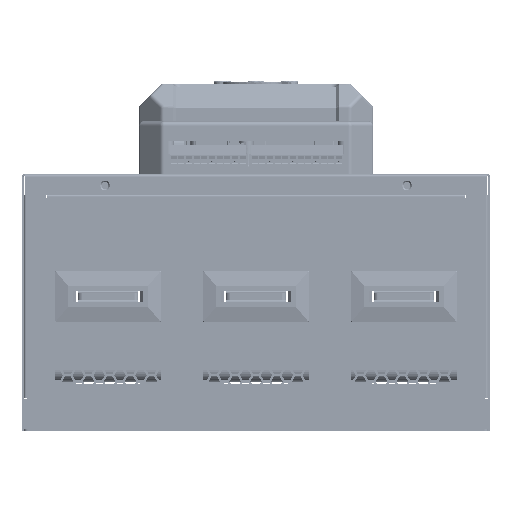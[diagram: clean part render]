
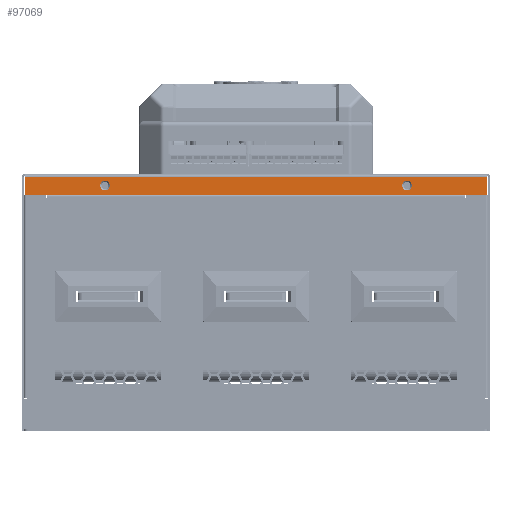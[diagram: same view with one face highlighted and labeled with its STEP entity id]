
A CAD part, front view. The second image highlights one B-rep face of the part: STEP entity #97069.
In plain terms, the highlighted planar face has unit normal (0, -1, 0).
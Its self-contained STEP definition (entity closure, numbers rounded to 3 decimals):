
#3520 = ORIENTED_EDGE ( 'NONE', *, *, #43506, .F. ) ;
#7126 = CIRCLE ( 'NONE', #175489, 3.25 ) ;
#35922 = EDGE_CURVE ( 'NONE', #301389, #199419, #313432, .T. ) ;
#38176 = AXIS2_PLACEMENT_3D ( 'NONE', #94986, #168383, #241799 ) ;
#41048 = DIRECTION ( 'NONE',  ( 0., 0., 1. ) ) ;
#43352 = DIRECTION ( 'NONE',  ( 1., 0., 0. ) ) ;
#43506 = EDGE_CURVE ( 'NONE', #199419, #301389, #172026, .T. ) ;
#47355 = ORIENTED_EDGE ( 'NONE', *, *, #91457, .F. ) ;
#51723 = CARTESIAN_POINT ( 'NONE',  ( 0., -220., 0. ) ) ;
#55103 = VECTOR ( 'NONE', #176930, 1000. ) ;
#62115 = EDGE_LOOP ( 'NONE', ( #3520, #139437 ) ) ;
#63439 = LINE ( 'NONE', #157663, #121133 ) ;
#70399 = ORIENTED_EDGE ( 'NONE', *, *, #273869, .F. ) ;
#76620 = AXIS2_PLACEMENT_3D ( 'NONE', #51723, #187975, #224060 ) ;
#76875 = EDGE_CURVE ( 'NONE', #167021, #260367, #221753, .T. ) ;
#81666 = DIRECTION ( 'NONE',  ( 1., 0., 0. ) ) ;
#85870 = CARTESIAN_POINT ( 'NONE',  ( 100., -220., -7.5 ) ) ;
#91457 = EDGE_CURVE ( 'NONE', #302088, #104892, #63439, .T. ) ;
#94986 = CARTESIAN_POINT ( 'NONE',  ( -100., -220., -7.5 ) ) ;
#97069 = ADVANCED_FACE ( 'NONE', ( #167182, #123541, #220905 ), #126712, .F. ) ;
#100730 = AXIS2_PLACEMENT_3D ( 'NONE', #257332, #214109, #43352 ) ;
#104892 = VERTEX_POINT ( 'NONE', #303477 ) ;
#108545 = EDGE_CURVE ( 'NONE', #276634, #208821, #244426, .T. ) ;
#115654 = CARTESIAN_POINT ( 'NONE',  ( 0., -220., -13.5 ) ) ;
#121133 = VECTOR ( 'NONE', #41048, 1000. ) ;
#123541 = FACE_BOUND ( 'NONE', #62115, .T. ) ;
#123706 = CARTESIAN_POINT ( 'NONE',  ( 103.25, -220., -7.5 ) ) ;
#126712 = PLANE ( 'NONE',  #76620 ) ;
#127867 = CARTESIAN_POINT ( 'NONE',  ( 153.093, -220., -13.5 ) ) ;
#130604 = CARTESIAN_POINT ( 'NONE',  ( 153.093, -220., 0. ) ) ;
#139437 = ORIENTED_EDGE ( 'NONE', *, *, #35922, .F. ) ;
#139636 = DIRECTION ( 'NONE',  ( -1., 0., 0. ) ) ;
#143210 = EDGE_LOOP ( 'NONE', ( #168071, #174712 ) ) ;
#145243 = AXIS2_PLACEMENT_3D ( 'NONE', #85870, #285281, #159279 ) ;
#146730 = CARTESIAN_POINT ( 'NONE',  ( -153.3, -220., -1.7 ) ) ;
#157663 = CARTESIAN_POINT ( 'NONE',  ( -153.093, -220., 0. ) ) ;
#159279 = DIRECTION ( 'NONE',  ( 1., 0., 0. ) ) ;
#160329 = CARTESIAN_POINT ( 'NONE',  ( -96.75, -220., -7.5 ) ) ;
#167021 = VERTEX_POINT ( 'NONE', #123706 ) ;
#167182 = FACE_OUTER_BOUND ( 'NONE', #170224, .T. ) ;
#168071 = ORIENTED_EDGE ( 'NONE', *, *, #76875, .F. ) ;
#168383 = DIRECTION ( 'NONE',  ( 0., -1., 0. ) ) ;
#170224 = EDGE_LOOP ( 'NONE', ( #70399, #47355, #287462, #219876 ) ) ;
#170653 = LINE ( 'NONE', #146730, #204733 ) ;
#172026 = CIRCLE ( 'NONE', #100730, 3.25 ) ;
#174712 = ORIENTED_EDGE ( 'NONE', *, *, #314991, .F. ) ;
#175489 = AXIS2_PLACEMENT_3D ( 'NONE', #277932, #177438, #81666 ) ;
#176423 = CARTESIAN_POINT ( 'NONE',  ( 96.75, -220., -7.5 ) ) ;
#176930 = DIRECTION ( 'NONE',  ( 0., 0., -1. ) ) ;
#177438 = DIRECTION ( 'NONE',  ( 0., -1., 0. ) ) ;
#185082 = CARTESIAN_POINT ( 'NONE',  ( 153.093, -220., -1.7 ) ) ;
#187975 = DIRECTION ( 'NONE',  ( 0., 1., 0. ) ) ;
#199419 = VERTEX_POINT ( 'NONE', #160329 ) ;
#204733 = VECTOR ( 'NONE', #220116, 1000. ) ;
#208821 = VERTEX_POINT ( 'NONE', #127867 ) ;
#214109 = DIRECTION ( 'NONE',  ( 0., -1., 0. ) ) ;
#219876 = ORIENTED_EDGE ( 'NONE', *, *, #108545, .F. ) ;
#220116 = DIRECTION ( 'NONE',  ( 1., 0., 0. ) ) ;
#220593 = EDGE_CURVE ( 'NONE', #208821, #302088, #286473, .T. ) ;
#220905 = FACE_BOUND ( 'NONE', #143210, .T. ) ;
#221753 = CIRCLE ( 'NONE', #145243, 3.25 ) ;
#224060 = DIRECTION ( 'NONE',  ( 0., 0., 1. ) ) ;
#226676 = VECTOR ( 'NONE', #139636, 1000. ) ;
#241799 = DIRECTION ( 'NONE',  ( 1., 0., 0. ) ) ;
#244426 = LINE ( 'NONE', #130604, #55103 ) ;
#251358 = CARTESIAN_POINT ( 'NONE',  ( -153.093, -220., -13.5 ) ) ;
#257332 = CARTESIAN_POINT ( 'NONE',  ( -100., -220., -7.5 ) ) ;
#260367 = VERTEX_POINT ( 'NONE', #176423 ) ;
#273869 = EDGE_CURVE ( 'NONE', #104892, #276634, #170653, .T. ) ;
#276634 = VERTEX_POINT ( 'NONE', #185082 ) ;
#277932 = CARTESIAN_POINT ( 'NONE',  ( 100., -220., -7.5 ) ) ;
#278014 = CARTESIAN_POINT ( 'NONE',  ( -103.25, -220., -7.5 ) ) ;
#285281 = DIRECTION ( 'NONE',  ( 0., -1., 0. ) ) ;
#286473 = LINE ( 'NONE', #115654, #226676 ) ;
#287462 = ORIENTED_EDGE ( 'NONE', *, *, #220593, .F. ) ;
#301389 = VERTEX_POINT ( 'NONE', #278014 ) ;
#302088 = VERTEX_POINT ( 'NONE', #251358 ) ;
#303477 = CARTESIAN_POINT ( 'NONE',  ( -153.093, -220., -1.7 ) ) ;
#313432 = CIRCLE ( 'NONE', #38176, 3.25 ) ;
#314991 = EDGE_CURVE ( 'NONE', #260367, #167021, #7126, .T. ) ;
